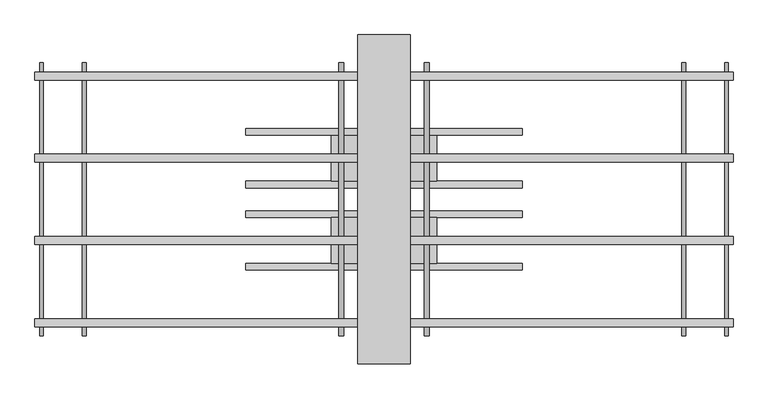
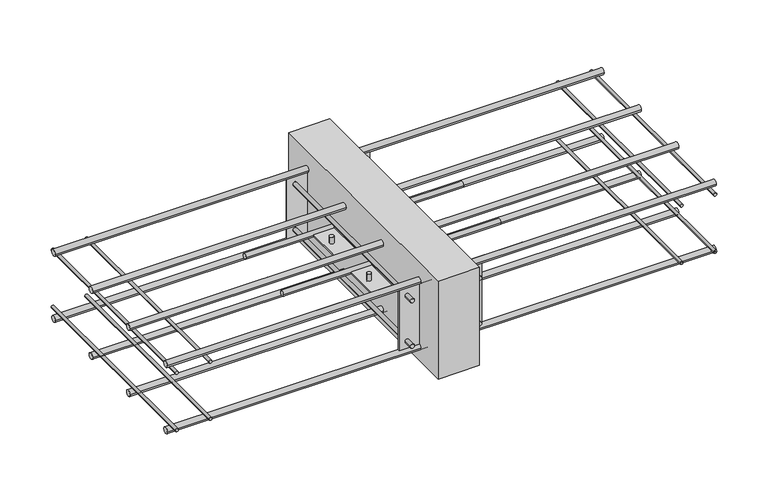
"""IFC4 building model written with IfcOpenShell, lengths in millimetres: proxy geometry, ACINOXplus_Typenreihe_M : MC+ S2."""

from ifc_helpers import new_model, si_unit, point, frame, frame_2d, origin, place, context, project, spatial, polyline, circle_curve, trimmed, segment, composite_curve, outline, extrude, source, transform, mapped, element, save
from ifc_brep_helpers import plane_surface, cylinder_surface, advanced_brep


def generic_models_bc1fedbd(model_context):
    return source(origin(), model_context, "Body", "SolidModel", [
        extrude(outline(composite_curve([segment(trimmed(circle_curve(frame_2d((-102.5, -103.5)), 5.0), [point((-107.5, -103.5))], [point((-97.5, -103.5))], False, "CARTESIAN"), True, "CONTINUOUS"), segment(trimmed(circle_curve(frame_2d((-102.5, -103.5)), 5.0), [point((-97.5, -103.5))], [point((-107.5, -103.5))], False, "CARTESIAN"), True, "CONTINUOUS")], self_intersect=False)), frame((-210.0, 0.0, 0.0), z_axis=(1.0, 0.0, 0.0), x_axis=(0.0, 1.0, 0.0)), (0.0, 0.0, 1.0), 420.0),
        extrude(outline(composite_curve([segment(trimmed(circle_curve(frame_2d((-22.5, -103.5)), 5.0), [point((-27.5, -103.5))], [point((-17.5, -103.5))], False, "CARTESIAN"), True, "CONTINUOUS"), segment(trimmed(circle_curve(frame_2d((-22.5, -103.5)), 5.0), [point((-17.5, -103.5))], [point((-27.5, -103.5))], False, "CARTESIAN"), True, "CONTINUOUS")], self_intersect=False)), frame((-210.0, 0.0, 0.0), z_axis=(1.0, 0.0, 0.0), x_axis=(0.0, 1.0, 0.0)), (0.0, 0.0, 1.0), 420.0),
        advanced_brep(
        [(-69.0, -62.5, -88.5), (-61.0, -62.5, -88.5), (61.0, -62.5, -88.5), (69.0, -62.5, -88.5), (-69.0, -62.5, -118.5), (-61.0, -62.5, -118.5), (61.0, -62.5, -118.5), (69.0, -62.5, -118.5), (-69.0, -62.5, -102.0), (-61.0, -62.5, -102.0), (-61.0, -62.5, -105.0), (-69.0, -62.5, -105.0), (61.0, -62.5, -102.0), (69.0, -62.5, -102.0), (69.0, -62.5, -105.0), (61.0, -62.5, -105.0), (80.0, -27.5, -102.0), (-80.0, -27.5, -102.0), (-80.0, -97.5, -102.0), (80.0, -97.5, -102.0), (80.0, -27.5, -105.0), (80.0, -97.5, -105.0), (-80.0, -97.5, -105.0), (-80.0, -27.5, -105.0)],
        [
            (0, 1, circle_curve(frame((-65.0, -62.5, -88.5), z_axis=(0.0, 0.0, 1.0), x_axis=(1.0, 0.0, 0.0)), 4.0)),
            (1, 0, circle_curve(frame((-65.0, -62.5, -88.5), z_axis=(0.0, 0.0, 1.0), x_axis=(1.0, 0.0, 0.0)), 4.0)),
            (2, 3, circle_curve(frame((65.0, -62.5, -88.5), z_axis=(0.0, 0.0, 1.0), x_axis=(1.0, 0.0, 0.0)), 4.0)),
            (3, 2, circle_curve(frame((65.0, -62.5, -88.5), z_axis=(0.0, 0.0, 1.0), x_axis=(1.0, 0.0, 0.0)), 4.0)),
            (4, 5, circle_curve(frame((-65.0, -62.5, -118.5), z_axis=(0.0, 0.0, -1.0), x_axis=(1.0, 0.0, 0.0)), 4.0)),
            (5, 4, circle_curve(frame((-65.0, -62.5, -118.5), z_axis=(0.0, 0.0, -1.0), x_axis=(1.0, 0.0, 0.0)), 4.0)),
            (6, 7, circle_curve(frame((65.0, -62.5, -118.5), z_axis=(0.0, 0.0, -1.0), x_axis=(1.0, 0.0, 0.0)), 4.0)),
            (7, 6, circle_curve(frame((65.0, -62.5, -118.5), z_axis=(0.0, 0.0, -1.0), x_axis=(1.0, 0.0, 0.0)), 4.0)),
            (0, 8),
            (8, 9, circle_curve(frame((-65.0, -62.5, -102.0), z_axis=(0.0, 0.0, 1.0), x_axis=(1.0, 0.0, 0.0)), 4.0)),
            (9, 1),
            (5, 10),
            (10, 11, circle_curve(frame((-65.0, -62.5, -105.0), z_axis=(0.0, 0.0, -1.0), x_axis=(1.0, 0.0, 0.0)), 4.0)),
            (11, 4),
            (9, 8, circle_curve(frame((-65.0, -62.5, -102.0), z_axis=(0.0, 0.0, 1.0), x_axis=(1.0, 0.0, 0.0)), 4.0)),
            (11, 10, circle_curve(frame((-65.0, -62.5, -105.0), z_axis=(0.0, 0.0, -1.0), x_axis=(1.0, 0.0, 0.0)), 4.0)),
            (2, 12),
            (12, 13, circle_curve(frame((65.0, -62.5, -102.0), z_axis=(0.0, 0.0, 1.0), x_axis=(1.0, 0.0, 0.0)), 4.0)),
            (13, 3),
            (7, 14),
            (14, 15, circle_curve(frame((65.0, -62.5, -105.0), z_axis=(0.0, 0.0, -1.0), x_axis=(1.0, 0.0, 0.0)), 4.0)),
            (15, 6),
            (13, 12, circle_curve(frame((65.0, -62.5, -102.0), z_axis=(0.0, 0.0, 1.0), x_axis=(1.0, 0.0, 0.0)), 4.0)),
            (15, 14, circle_curve(frame((65.0, -62.5, -105.0), z_axis=(0.0, 0.0, -1.0), x_axis=(1.0, 0.0, 0.0)), 4.0)),
            (16, 17),
            (17, 18),
            (18, 19),
            (19, 16),
            (20, 21),
            (21, 22),
            (22, 23),
            (23, 20),
            (16, 20),
            (23, 17),
            (22, 18),
            (21, 19),
        ],
        [
            plane_surface(frame((-61.0, -62.5, -88.5), z_axis=(0.0, 0.0, 1.0), x_axis=(0.0, 1.0, 0.0))),
            plane_surface(frame((-61.0, -62.5, -118.5), z_axis=(0.0, 0.0, -1.0), x_axis=(0.0, -1.0, 0.0))),
            cylinder_surface(frame((-65.0, -62.5, -118.5), z_axis=(0.0, 0.0, 1.0), x_axis=(1.0, 0.0, 0.0)), 4.0),
            cylinder_surface(frame((65.0, -62.5, -103.5), z_axis=(0.0, 0.0, 1.0), x_axis=(1.0, 0.0, 0.0)), 4.0),
            plane_surface(frame((-80.0, -27.5, -102.0), z_axis=(0.0, 0.0, 1.0), x_axis=(-1.0, 0.0, 0.0))),
            plane_surface(frame((-80.0, -27.5, -105.0), z_axis=(0.0, 0.0, -1.0), x_axis=(1.0, 0.0, 0.0))),
            plane_surface(frame((80.0, -27.5, -102.0), z_axis=(0.0, 1.0, 0.0), x_axis=(0.0, 0.0, -1.0))),
            plane_surface(frame((-80.0, -27.5, -102.0), z_axis=(-1.0, 0.0, 0.0), x_axis=(0.0, 0.0, -1.0))),
            plane_surface(frame((-80.0, -97.5, -102.0), z_axis=(0.0, -1.0, 0.0), x_axis=(0.0, 0.0, -1.0))),
            plane_surface(frame((80.0, -97.5, -102.0), z_axis=(1.0, 0.0, 0.0), x_axis=(0.0, 0.0, -1.0))),
        ],
        [
            (0, [[1, 2]]),
            (0, [[3, 4]]),
            (1, [[5, 6]]),
            (1, [[7, 8]]),
            (2, [[-1, 9, 10, 11]]),
            (2, [[-6, 12, 13, 14]]),
            (2, [[-2, -11, 15, -9]]),
            (2, [[-5, -14, 16, -12]]),
            (3, [[-3, 17, 18, 19]]),
            (3, [[-8, 20, 21, 22]]),
            (3, [[-4, -19, 23, -17]]),
            (3, [[-7, -22, 24, -20]]),
            (4, [[25, 26, 27, 28], [-10, -15], [-18, -23]]),
            (5, [[29, 30, 31, 32], [-13, -16], [-21, -24]]),
            (6, [[-25, 33, -32, 34]]),
            (7, [[-26, -34, -31, 35]]),
            (8, [[-27, -35, -30, 36]]),
            (9, [[-28, -36, -29, -33]]),
        ],
    ),
        extrude(outline(composite_curve([segment(trimmed(circle_curve(frame_2d((22.5, -103.5)), 5.0), [point((17.5, -103.5))], [point((27.5, -103.5))], False, "CARTESIAN"), True, "CONTINUOUS"), segment(trimmed(circle_curve(frame_2d((22.5, -103.5)), 5.0), [point((27.5, -103.5))], [point((17.5, -103.5))], False, "CARTESIAN"), True, "CONTINUOUS")], self_intersect=False)), frame((-210.0, 0.0, 0.0), z_axis=(1.0, 0.0, 0.0), x_axis=(0.0, 1.0, 0.0)), (0.0, 0.0, 1.0), 420.0),
        extrude(outline(composite_curve([segment(trimmed(circle_curve(frame_2d((102.5, -103.5)), 5.0), [point((97.5, -103.5))], [point((107.5, -103.5))], False, "CARTESIAN"), True, "CONTINUOUS"), segment(trimmed(circle_curve(frame_2d((102.5, -103.5)), 5.0), [point((107.5, -103.5))], [point((97.5, -103.5))], False, "CARTESIAN"), True, "CONTINUOUS")], self_intersect=False)), frame((-210.0, 0.0, 0.0), z_axis=(1.0, 0.0, 0.0), x_axis=(0.0, 1.0, 0.0)), (0.0, 0.0, 1.0), 420.0),
        advanced_brep(
        [(-69.0, 62.5, -88.5), (-61.0, 62.5, -88.5), (61.0, 62.5, -88.5), (69.0, 62.5, -88.5), (-69.0, 62.5, -118.5), (-61.0, 62.5, -118.5), (61.0, 62.5, -118.5), (69.0, 62.5, -118.5), (-69.0, 62.5, -102.0), (-61.0, 62.5, -102.0), (-61.0, 62.5, -105.0), (-69.0, 62.5, -105.0), (61.0, 62.5, -102.0), (69.0, 62.5, -102.0), (69.0, 62.5, -105.0), (61.0, 62.5, -105.0), (80.0, 97.5, -102.0), (-80.0, 97.5, -102.0), (-80.0, 27.5, -102.0), (80.0, 27.5, -102.0), (80.0, 97.5, -105.0), (80.0, 27.5, -105.0), (-80.0, 27.5, -105.0), (-80.0, 97.5, -105.0)],
        [
            (0, 1, circle_curve(frame((-65.0, 62.5, -88.5), z_axis=(0.0, 0.0, 1.0), x_axis=(1.0, 0.0, 0.0)), 4.0)),
            (1, 0, circle_curve(frame((-65.0, 62.5, -88.5), z_axis=(0.0, 0.0, 1.0), x_axis=(1.0, 0.0, 0.0)), 4.0)),
            (2, 3, circle_curve(frame((65.0, 62.5, -88.5), z_axis=(0.0, 0.0, 1.0), x_axis=(1.0, 0.0, 0.0)), 4.0)),
            (3, 2, circle_curve(frame((65.0, 62.5, -88.5), z_axis=(0.0, 0.0, 1.0), x_axis=(1.0, 0.0, 0.0)), 4.0)),
            (4, 5, circle_curve(frame((-65.0, 62.5, -118.5), z_axis=(0.0, 0.0, -1.0), x_axis=(1.0, 0.0, 0.0)), 4.0)),
            (5, 4, circle_curve(frame((-65.0, 62.5, -118.5), z_axis=(0.0, 0.0, -1.0), x_axis=(1.0, 0.0, 0.0)), 4.0)),
            (6, 7, circle_curve(frame((65.0, 62.5, -118.5), z_axis=(0.0, 0.0, -1.0), x_axis=(1.0, 0.0, 0.0)), 4.0)),
            (7, 6, circle_curve(frame((65.0, 62.5, -118.5), z_axis=(0.0, 0.0, -1.0), x_axis=(1.0, 0.0, 0.0)), 4.0)),
            (0, 8),
            (8, 9, circle_curve(frame((-65.0, 62.5, -102.0), z_axis=(0.0, 0.0, 1.0), x_axis=(1.0, 0.0, 0.0)), 4.0)),
            (9, 1),
            (5, 10),
            (10, 11, circle_curve(frame((-65.0, 62.5, -105.0), z_axis=(0.0, 0.0, -1.0), x_axis=(1.0, 0.0, 0.0)), 4.0)),
            (11, 4),
            (9, 8, circle_curve(frame((-65.0, 62.5, -102.0), z_axis=(0.0, 0.0, 1.0), x_axis=(1.0, 0.0, 0.0)), 4.0)),
            (11, 10, circle_curve(frame((-65.0, 62.5, -105.0), z_axis=(0.0, 0.0, -1.0), x_axis=(1.0, 0.0, 0.0)), 4.0)),
            (2, 12),
            (12, 13, circle_curve(frame((65.0, 62.5, -102.0), z_axis=(0.0, 0.0, 1.0), x_axis=(1.0, 0.0, 0.0)), 4.0)),
            (13, 3),
            (7, 14),
            (14, 15, circle_curve(frame((65.0, 62.5, -105.0), z_axis=(0.0, 0.0, -1.0), x_axis=(1.0, 0.0, 0.0)), 4.0)),
            (15, 6),
            (13, 12, circle_curve(frame((65.0, 62.5, -102.0), z_axis=(0.0, 0.0, 1.0), x_axis=(1.0, 0.0, 0.0)), 4.0)),
            (15, 14, circle_curve(frame((65.0, 62.5, -105.0), z_axis=(0.0, 0.0, -1.0), x_axis=(1.0, 0.0, 0.0)), 4.0)),
            (16, 17),
            (17, 18),
            (18, 19),
            (19, 16),
            (20, 21),
            (21, 22),
            (22, 23),
            (23, 20),
            (16, 20),
            (23, 17),
            (22, 18),
            (21, 19),
        ],
        [
            plane_surface(frame((-61.0, 62.5, -88.5), z_axis=(0.0, 0.0, 1.0), x_axis=(0.0, 1.0, 0.0))),
            plane_surface(frame((-61.0, 62.5, -118.5), z_axis=(0.0, 0.0, -1.0), x_axis=(0.0, -1.0, 0.0))),
            cylinder_surface(frame((-65.0, 62.5, -118.5), z_axis=(0.0, 0.0, 1.0), x_axis=(1.0, 0.0, 0.0)), 4.0),
            cylinder_surface(frame((65.0, 62.5, -103.5), z_axis=(0.0, 0.0, 1.0), x_axis=(1.0, 0.0, 0.0)), 4.0),
            plane_surface(frame((-80.0, 97.5, -102.0), z_axis=(0.0, 0.0, 1.0), x_axis=(-1.0, 0.0, 0.0))),
            plane_surface(frame((-80.0, 97.5, -105.0), z_axis=(0.0, 0.0, -1.0), x_axis=(1.0, 0.0, 0.0))),
            plane_surface(frame((80.0, 97.5, -102.0), z_axis=(0.0, 1.0, 0.0), x_axis=(0.0, 0.0, -1.0))),
            plane_surface(frame((-80.0, 97.5, -102.0), z_axis=(-1.0, 0.0, 0.0), x_axis=(0.0, 0.0, -1.0))),
            plane_surface(frame((-80.0, 27.5, -102.0), z_axis=(0.0, -1.0, 0.0), x_axis=(0.0, 0.0, -1.0))),
            plane_surface(frame((80.0, 27.5, -102.0), z_axis=(1.0, 0.0, 0.0), x_axis=(0.0, 0.0, -1.0))),
        ],
        [
            (0, [[1, 2]]),
            (0, [[3, 4]]),
            (1, [[5, 6]]),
            (1, [[7, 8]]),
            (2, [[-1, 9, 10, 11]]),
            (2, [[-6, 12, 13, 14]]),
            (2, [[-2, -11, 15, -9]]),
            (2, [[-5, -14, 16, -12]]),
            (3, [[-3, 17, 18, 19]]),
            (3, [[-8, 20, 21, 22]]),
            (3, [[-4, -19, 23, -17]]),
            (3, [[-7, -22, 24, -20]]),
            (4, [[25, 26, 27, 28], [-10, -15], [-18, -23]]),
            (5, [[29, 30, 31, 32], [-13, -16], [-21, -24]]),
            (6, [[-25, 33, -32, 34]]),
            (7, [[-26, -34, -31, 35]]),
            (8, [[-27, -35, -30, 36]]),
            (9, [[-28, -36, -29, -33]]),
        ],
    ),
        extrude(outline(polyline([(40.0, 250.0), (40.0, -250.0), (-40.0, -250.0), (-40.0, 250.0), (40.0, 250.0)])), frame((0.0, 0.0, -200.0), z_axis=(0.0, 0.0, 1.0), x_axis=(1.0, 0.0, 0.0)), (0.0, 0.0, 1.0), 200.0),
        extrude(outline(polyline([(80.0, -186.0), (80.0, -189.0), (-80.0, -189.0), (-80.0, -186.0), (80.0, -186.0)])), frame((0.0, 0.0, -165.0), z_axis=(0.0, 0.0, 1.0), x_axis=(1.0, 0.0, 0.0)), (0.0, 0.0, 1.0), 123.0),
        extrude(outline(polyline([(80.0, 189.0), (80.0, 186.0), (-80.0, 186.0), (-80.0, 189.0), (80.0, 189.0)])), frame((0.0, 0.0, -165.0), z_axis=(0.0, 0.0, 1.0), x_axis=(1.0, 0.0, 0.0)), (0.0, 0.0, 1.0), 123.0),
        extrude(outline(composite_curve([segment(trimmed(circle_curve(frame_2d((-150.0, -65.0)), 4.0), [point((-150.0, -69.0))], [point((-150.0, -61.0))], False, "CARTESIAN"), True, "CONTINUOUS"), segment(trimmed(circle_curve(frame_2d((-150.0, -65.0)), 4.0), [point((-150.0, -61.0))], [point((-150.0, -69.0))], False, "CARTESIAN"), True, "CONTINUOUS")], self_intersect=False)), frame((0.0, 189.0, 0.0), z_axis=(0.0, 1.0, 0.0), x_axis=(0.0, 0.0, 1.0)), (0.0, 0.0, 1.0), 18.5),
        extrude(outline(composite_curve([segment(trimmed(circle_curve(frame_2d((-150.0, -65.0)), 4.0), [point((-150.0, -61.0))], [point((-150.0, -69.0))], False, "CARTESIAN"), True, "CONTINUOUS"), segment(trimmed(circle_curve(frame_2d((-150.0, -65.0)), 4.0), [point((-150.0, -69.0))], [point((-150.0, -61.0))], False, "CARTESIAN"), True, "CONTINUOUS")], self_intersect=False)), frame((0.0, -207.5, 0.0), z_axis=(0.0, 1.0, 0.0), x_axis=(0.0, 0.0, 1.0)), (0.0, 0.0, 1.0), 18.5),
        extrude(outline(composite_curve([segment(trimmed(circle_curve(frame_2d((-150.0, -65.0)), 4.0), [point((-150.0, -69.0))], [point((-150.0, -61.0))], False, "CARTESIAN"), True, "CONTINUOUS"), segment(trimmed(circle_curve(frame_2d((-150.0, -65.0)), 4.0), [point((-150.0, -61.0))], [point((-150.0, -69.0))], False, "CARTESIAN"), True, "CONTINUOUS")], self_intersect=False)), frame((0.0, -186.0, 0.0), z_axis=(0.0, 1.0, 0.0), x_axis=(0.0, 0.0, 1.0)), (0.0, 0.0, 1.0), 372.0),
        extrude(outline(composite_curve([segment(trimmed(circle_curve(frame_2d((-150.0, 65.0)), 4.0), [point((-150.0, 61.0))], [point((-150.0, 69.0))], False, "CARTESIAN"), True, "CONTINUOUS"), segment(trimmed(circle_curve(frame_2d((-150.0, 65.0)), 4.0), [point((-150.0, 69.0))], [point((-150.0, 61.0))], False, "CARTESIAN"), True, "CONTINUOUS")], self_intersect=False)), frame((0.0, 189.0, 0.0), z_axis=(0.0, 1.0, 0.0), x_axis=(0.0, 0.0, 1.0)), (0.0, 0.0, 1.0), 18.5),
        extrude(outline(composite_curve([segment(trimmed(circle_curve(frame_2d((-150.0, 65.0)), 4.0), [point((-150.0, 69.0))], [point((-150.0, 61.0))], False, "CARTESIAN"), True, "CONTINUOUS"), segment(trimmed(circle_curve(frame_2d((-150.0, 65.0)), 4.0), [point((-150.0, 61.0))], [point((-150.0, 69.0))], False, "CARTESIAN"), True, "CONTINUOUS")], self_intersect=False)), frame((0.0, -207.5, 0.0), z_axis=(0.0, 1.0, 0.0), x_axis=(0.0, 0.0, 1.0)), (0.0, 0.0, 1.0), 18.5),
        extrude(outline(composite_curve([segment(trimmed(circle_curve(frame_2d((-150.0, 65.0)), 4.0), [point((-150.0, 61.0))], [point((-150.0, 69.0))], False, "CARTESIAN"), True, "CONTINUOUS"), segment(trimmed(circle_curve(frame_2d((-150.0, 65.0)), 4.0), [point((-150.0, 69.0))], [point((-150.0, 61.0))], False, "CARTESIAN"), True, "CONTINUOUS")], self_intersect=False)), frame((0.0, -186.0, 0.0), z_axis=(0.0, 1.0, 0.0), x_axis=(0.0, 0.0, 1.0)), (0.0, 0.0, 1.0), 372.0),
        extrude(outline(composite_curve([segment(trimmed(circle_curve(frame_2d((-57.0, -65.0)), 4.0), [point((-57.0, -69.0))], [point((-57.0, -61.0))], False, "CARTESIAN"), True, "CONTINUOUS"), segment(trimmed(circle_curve(frame_2d((-57.0, -65.0)), 4.0), [point((-57.0, -61.0))], [point((-57.0, -69.0))], False, "CARTESIAN"), True, "CONTINUOUS")], self_intersect=False)), frame((0.0, 189.0, 0.0), z_axis=(0.0, 1.0, 0.0), x_axis=(0.0, 0.0, 1.0)), (0.0, 0.0, 1.0), 18.5),
        extrude(outline(composite_curve([segment(trimmed(circle_curve(frame_2d((-57.0, -65.0)), 4.0), [point((-57.0, -61.0))], [point((-57.0, -69.0))], False, "CARTESIAN"), True, "CONTINUOUS"), segment(trimmed(circle_curve(frame_2d((-57.0, -65.0)), 4.0), [point((-57.0, -69.0))], [point((-57.0, -61.0))], False, "CARTESIAN"), True, "CONTINUOUS")], self_intersect=False)), frame((0.0, -207.5, 0.0), z_axis=(0.0, 1.0, 0.0), x_axis=(0.0, 0.0, 1.0)), (0.0, 0.0, 1.0), 18.5),
        extrude(outline(composite_curve([segment(trimmed(circle_curve(frame_2d((-57.0, -65.0)), 4.0), [point((-57.0, -69.0))], [point((-57.0, -61.0))], False, "CARTESIAN"), True, "CONTINUOUS"), segment(trimmed(circle_curve(frame_2d((-57.0, -65.0)), 4.0), [point((-57.0, -61.0))], [point((-57.0, -69.0))], False, "CARTESIAN"), True, "CONTINUOUS")], self_intersect=False)), frame((0.0, -186.0, 0.0), z_axis=(0.0, 1.0, 0.0), x_axis=(0.0, 0.0, 1.0)), (0.0, 0.0, 1.0), 372.0),
        extrude(outline(composite_curve([segment(trimmed(circle_curve(frame_2d((-57.0, 65.0)), 4.0), [point((-57.0, 61.0))], [point((-57.0, 69.0))], False, "CARTESIAN"), True, "CONTINUOUS"), segment(trimmed(circle_curve(frame_2d((-57.0, 65.0)), 4.0), [point((-57.0, 69.0))], [point((-57.0, 61.0))], False, "CARTESIAN"), True, "CONTINUOUS")], self_intersect=False)), frame((0.0, 189.0, 0.0), z_axis=(0.0, 1.0, 0.0), x_axis=(0.0, 0.0, 1.0)), (0.0, 0.0, 1.0), 18.5),
        extrude(outline(composite_curve([segment(trimmed(circle_curve(frame_2d((-57.0, 65.0)), 4.0), [point((-57.0, 69.0))], [point((-57.0, 61.0))], False, "CARTESIAN"), True, "CONTINUOUS"), segment(trimmed(circle_curve(frame_2d((-57.0, 65.0)), 4.0), [point((-57.0, 61.0))], [point((-57.0, 69.0))], False, "CARTESIAN"), True, "CONTINUOUS")], self_intersect=False)), frame((0.0, -207.5, 0.0), z_axis=(0.0, 1.0, 0.0), x_axis=(0.0, 0.0, 1.0)), (0.0, 0.0, 1.0), 18.5),
        extrude(outline(composite_curve([segment(trimmed(circle_curve(frame_2d((-57.0, 65.0)), 4.0), [point((-57.0, 61.0))], [point((-57.0, 69.0))], False, "CARTESIAN"), True, "CONTINUOUS"), segment(trimmed(circle_curve(frame_2d((-57.0, 65.0)), 4.0), [point((-57.0, 69.0))], [point((-57.0, 61.0))], False, "CARTESIAN"), True, "CONTINUOUS")], self_intersect=False)), frame((0.0, -186.0, 0.0), z_axis=(0.0, 1.0, 0.0), x_axis=(0.0, 0.0, 1.0)), (0.0, 0.0, 1.0), 372.0),
        extrude(outline(composite_curve([segment(trimmed(circle_curve(frame_2d((62.5, -171.0)), 6.0), [point((56.5, -171.0))], [point((68.5, -171.0))], False, "CARTESIAN"), True, "CONTINUOUS"), segment(trimmed(circle_curve(frame_2d((62.5, -171.0)), 6.0), [point((68.5, -171.0))], [point((56.5, -171.0))], False, "CARTESIAN"), True, "CONTINUOUS")], self_intersect=False)), frame((-530.0, 0.0, 0.0), z_axis=(1.0, 0.0, 0.0), x_axis=(0.0, 1.0, 0.0)), (0.0, 0.0, 1.0), 1060.0),
        extrude(outline(composite_curve([segment(trimmed(circle_curve(frame_2d((187.5, -171.0)), 6.0), [point((181.5, -171.0))], [point((193.5, -171.0))], False, "CARTESIAN"), True, "CONTINUOUS"), segment(trimmed(circle_curve(frame_2d((187.5, -171.0)), 6.0), [point((193.5, -171.0))], [point((181.5, -171.0))], False, "CARTESIAN"), True, "CONTINUOUS")], self_intersect=False)), frame((-530.0, 0.0, 0.0), z_axis=(1.0, 0.0, 0.0), x_axis=(0.0, 1.0, 0.0)), (0.0, 0.0, 1.0), 1060.0),
        extrude(outline(composite_curve([segment(trimmed(circle_curve(frame_2d((-62.5, -171.0)), 6.0), [point((-68.5, -171.0))], [point((-56.5, -171.0))], False, "CARTESIAN"), True, "CONTINUOUS"), segment(trimmed(circle_curve(frame_2d((-62.5, -171.0)), 6.0), [point((-56.5, -171.0))], [point((-68.5, -171.0))], False, "CARTESIAN"), True, "CONTINUOUS")], self_intersect=False)), frame((-530.0, 0.0, 0.0), z_axis=(1.0, 0.0, 0.0), x_axis=(0.0, 1.0, 0.0)), (0.0, 0.0, 1.0), 1060.0),
        extrude(outline(composite_curve([segment(trimmed(circle_curve(frame_2d((-187.5, -171.0)), 6.0), [point((-193.5, -171.0))], [point((-181.5, -171.0))], False, "CARTESIAN"), True, "CONTINUOUS"), segment(trimmed(circle_curve(frame_2d((-187.5, -171.0)), 6.0), [point((-181.5, -171.0))], [point((-193.5, -171.0))], False, "CARTESIAN"), True, "CONTINUOUS")], self_intersect=False)), frame((-530.0, 0.0, 0.0), z_axis=(1.0, 0.0, 0.0), x_axis=(0.0, 1.0, 0.0)), (0.0, 0.0, 1.0), 1060.0),
        extrude(outline(composite_curve([segment(trimmed(circle_curve(frame_2d((62.5, -36.0)), 6.0), [point((56.5, -36.0))], [point((68.5, -36.0))], False, "CARTESIAN"), True, "CONTINUOUS"), segment(trimmed(circle_curve(frame_2d((62.5, -36.0)), 6.0), [point((68.5, -36.0))], [point((56.5, -36.0))], False, "CARTESIAN"), True, "CONTINUOUS")], self_intersect=False)), frame((-530.0, 0.0, 0.0), z_axis=(1.0, 0.0, 0.0), x_axis=(0.0, 1.0, 0.0)), (0.0, 0.0, 1.0), 1060.0),
        extrude(outline(composite_curve([segment(trimmed(circle_curve(frame_2d((187.5, -36.0)), 6.0), [point((181.5, -36.0))], [point((193.5, -36.0))], False, "CARTESIAN"), True, "CONTINUOUS"), segment(trimmed(circle_curve(frame_2d((187.5, -36.0)), 6.0), [point((193.5, -36.0))], [point((181.5, -36.0))], False, "CARTESIAN"), True, "CONTINUOUS")], self_intersect=False)), frame((-530.0, 0.0, 0.0), z_axis=(1.0, 0.0, 0.0), x_axis=(0.0, 1.0, 0.0)), (0.0, 0.0, 1.0), 1060.0),
        extrude(outline(composite_curve([segment(trimmed(circle_curve(frame_2d((-62.5, -36.0)), 6.0), [point((-68.5, -36.0))], [point((-56.5, -36.0))], False, "CARTESIAN"), True, "CONTINUOUS"), segment(trimmed(circle_curve(frame_2d((-62.5, -36.0)), 6.0), [point((-56.5, -36.0))], [point((-68.5, -36.0))], False, "CARTESIAN"), True, "CONTINUOUS")], self_intersect=False)), frame((-530.0, 0.0, 0.0), z_axis=(1.0, 0.0, 0.0), x_axis=(0.0, 1.0, 0.0)), (0.0, 0.0, 1.0), 1060.0),
        extrude(outline(composite_curve([segment(trimmed(circle_curve(frame_2d((-187.5, -36.0)), 6.0), [point((-193.5, -36.0))], [point((-181.5, -36.0))], False, "CARTESIAN"), True, "CONTINUOUS"), segment(trimmed(circle_curve(frame_2d((-187.5, -36.0)), 6.0), [point((-181.5, -36.0))], [point((-193.5, -36.0))], False, "CARTESIAN"), True, "CONTINUOUS")], self_intersect=False)), frame((-530.0, 0.0, 0.0), z_axis=(1.0, 0.0, 0.0), x_axis=(0.0, 1.0, 0.0)), (0.0, 0.0, 1.0), 1060.0),
        extrude(outline(composite_curve([segment(trimmed(circle_curve(frame_2d((-162.0, -520.0)), 3.0), [point((-162.0, -517.0))], [point((-162.0, -523.0))], False, "CARTESIAN"), True, "CONTINUOUS"), segment(trimmed(circle_curve(frame_2d((-162.0, -520.0)), 3.0), [point((-162.0, -523.0))], [point((-162.0, -517.0))], False, "CARTESIAN"), True, "CONTINUOUS")], self_intersect=False)), frame((0.0, -207.5, 0.0), z_axis=(0.0, 1.0, 0.0), x_axis=(0.0, 0.0, 1.0)), (0.0, 0.0, 1.0), 415.0),
        extrude(outline(composite_curve([segment(trimmed(circle_curve(frame_2d((-162.0, -455.0)), 3.0), [point((-162.0, -452.0))], [point((-162.0, -458.0))], False, "CARTESIAN"), True, "CONTINUOUS"), segment(trimmed(circle_curve(frame_2d((-162.0, -455.0)), 3.0), [point((-162.0, -458.0))], [point((-162.0, -452.0))], False, "CARTESIAN"), True, "CONTINUOUS")], self_intersect=False)), frame((0.0, -207.5, 0.0), z_axis=(0.0, 1.0, 0.0), x_axis=(0.0, 0.0, 1.0)), (0.0, 0.0, 1.0), 415.0),
        extrude(outline(composite_curve([segment(trimmed(circle_curve(frame_2d((-162.0, 455.0)), 3.0), [point((-162.0, 458.0))], [point((-162.0, 452.0))], False, "CARTESIAN"), True, "CONTINUOUS"), segment(trimmed(circle_curve(frame_2d((-162.0, 455.0)), 3.0), [point((-162.0, 452.0))], [point((-162.0, 458.0))], False, "CARTESIAN"), True, "CONTINUOUS")], self_intersect=False)), frame((0.0, -207.5, 0.0), z_axis=(0.0, 1.0, 0.0), x_axis=(0.0, 0.0, 1.0)), (0.0, 0.0, 1.0), 415.0),
        extrude(outline(composite_curve([segment(trimmed(circle_curve(frame_2d((-162.0, 520.0)), 3.0), [point((-162.0, 523.0))], [point((-162.0, 517.0))], False, "CARTESIAN"), True, "CONTINUOUS"), segment(trimmed(circle_curve(frame_2d((-162.0, 520.0)), 3.0), [point((-162.0, 517.0))], [point((-162.0, 523.0))], False, "CARTESIAN"), True, "CONTINUOUS")], self_intersect=False)), frame((0.0, -207.5, 0.0), z_axis=(0.0, 1.0, 0.0), x_axis=(0.0, 0.0, 1.0)), (0.0, 0.0, 1.0), 415.0),
        extrude(outline(composite_curve([segment(trimmed(circle_curve(frame_2d((-45.0, 455.0)), 3.0), [point((-45.0, 458.0))], [point((-45.0, 452.0))], False, "CARTESIAN"), True, "CONTINUOUS"), segment(trimmed(circle_curve(frame_2d((-45.0, 455.0)), 3.0), [point((-45.0, 452.0))], [point((-45.0, 458.0))], False, "CARTESIAN"), True, "CONTINUOUS")], self_intersect=False)), frame((0.0, -207.5, 0.0), z_axis=(0.0, 1.0, 0.0), x_axis=(0.0, 0.0, 1.0)), (0.0, 0.0, 1.0), 415.0),
        extrude(outline(composite_curve([segment(trimmed(circle_curve(frame_2d((-45.0, 520.0)), 3.0), [point((-45.0, 523.0))], [point((-45.0, 517.0))], False, "CARTESIAN"), True, "CONTINUOUS"), segment(trimmed(circle_curve(frame_2d((-45.0, 520.0)), 3.0), [point((-45.0, 517.0))], [point((-45.0, 523.0))], False, "CARTESIAN"), True, "CONTINUOUS")], self_intersect=False)), frame((0.0, -207.5, 0.0), z_axis=(0.0, 1.0, 0.0), x_axis=(0.0, 0.0, 1.0)), (0.0, 0.0, 1.0), 415.0),
        extrude(outline(composite_curve([segment(trimmed(circle_curve(frame_2d((-45.0, -520.0)), 3.0), [point((-45.0, -517.0))], [point((-45.0, -523.0))], False, "CARTESIAN"), True, "CONTINUOUS"), segment(trimmed(circle_curve(frame_2d((-45.0, -520.0)), 3.0), [point((-45.0, -523.0))], [point((-45.0, -517.0))], False, "CARTESIAN"), True, "CONTINUOUS")], self_intersect=False)), frame((0.0, -207.5, 0.0), z_axis=(0.0, 1.0, 0.0), x_axis=(0.0, 0.0, 1.0)), (0.0, 0.0, 1.0), 415.0),
        extrude(outline(composite_curve([segment(trimmed(circle_curve(frame_2d((-45.0, -455.0)), 3.0), [point((-45.0, -452.0))], [point((-45.0, -458.0))], False, "CARTESIAN"), True, "CONTINUOUS"), segment(trimmed(circle_curve(frame_2d((-45.0, -455.0)), 3.0), [point((-45.0, -458.0))], [point((-45.0, -452.0))], False, "CARTESIAN"), True, "CONTINUOUS")], self_intersect=False)), frame((0.0, -207.5, 0.0), z_axis=(0.0, 1.0, 0.0), x_axis=(0.0, 0.0, 1.0)), (0.0, 0.0, 1.0), 415.0),
    ])


if __name__ == "__main__":
    model = new_model("IFC4")
    model_context = context("Model", 3, world=origin())
    ifc_project = project(units=[si_unit("LENGTHUNIT", "METRE", prefix="MILLI")], contexts=[model_context])
    site = spatial("IfcSite", under=ifc_project)
    building = spatial("IfcBuilding", under=site)
    placement = place(None, origin())
    generic_models_shape = generic_models_bc1fedbd(model_context)
    element("IfcBuildingElementProxy", 1, Name="ACINOXplus_Typenreihe_M : MC+ S2", ObjectType="ACINOXplus_Typenreihe_M : MC+ S2", at=placement, inside=building, context=model_context, shape_type="MappedRepresentation", body=[
        mapped(generic_models_shape, transform((0.0, 0.0, 0.0), x_axis=(1.0, 0.0, 0.0), y_axis=(0.0, 1.0, 0.0), z_axis=(0.0, 0.0, 1.0))),
    ])
    save(model, "model.ifc")
